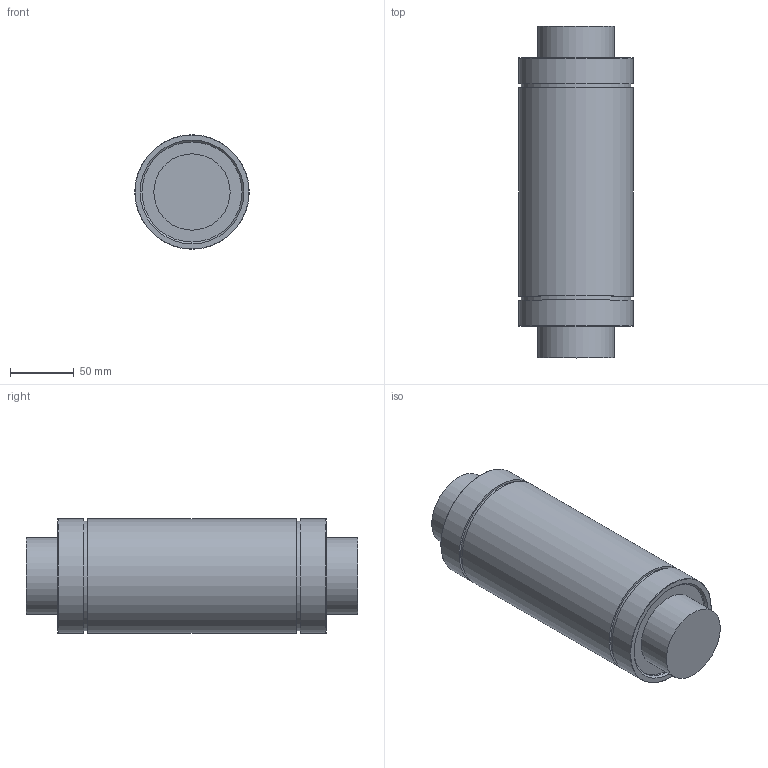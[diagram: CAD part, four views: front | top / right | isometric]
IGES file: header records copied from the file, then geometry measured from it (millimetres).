
Global section: file name: No Iges File Name specified; native system: Autodesk Inventor 2012; preprocessor: AutoDesk Inventor Iges Exporter R2012; author: user2; date: 20130206.102353; units: millimetre
Bounding box: 90 x 261 x 90 mm (x, y, z)
Volume: 1467848.3 mm3; surface area: 85815.7 mm2
Topology: 1 solids, 1 shells, 23 faces, 37 edges, 24 vertices
Faces by surface type: plane 10, cylinder 7, revolution 4, torus 2
Full cylindrical faces by diameter (mm): 60 x2, 86.5 x2, 90 x3
